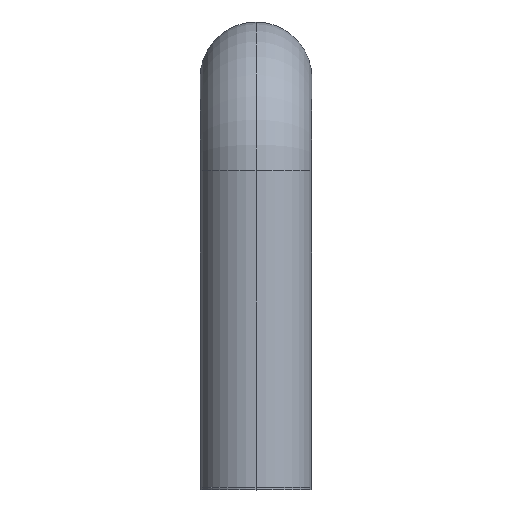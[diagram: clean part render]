
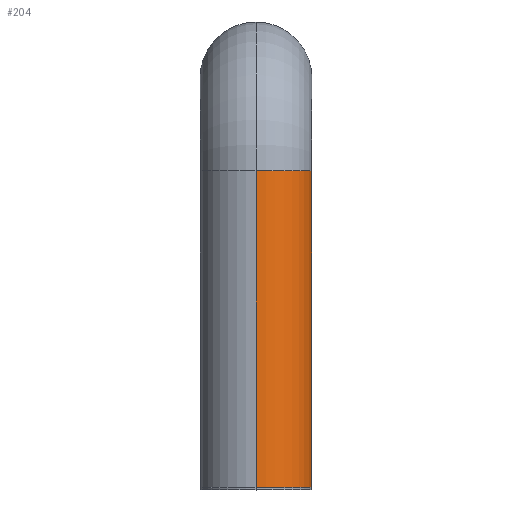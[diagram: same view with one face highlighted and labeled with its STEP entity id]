
A CAD part, top view. The second image highlights one B-rep face of the part: STEP entity #204.
In plain terms, the highlighted cylindrical face has radius 6 mm (diameter 12 mm), a partial arc.
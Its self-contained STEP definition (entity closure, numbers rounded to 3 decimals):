
#1 = FACE_OUTER_BOUND ( 'NONE', #473, .T. ) ;
#6 = DIRECTION ( 'NONE',  ( 0., 1., 0. ) ) ;
#14 = EDGE_CURVE ( 'NONE', #519, #365, #290, .T. ) ;
#53 = CARTESIAN_POINT ( 'NONE',  ( 0., 0., 0. ) ) ;
#65 = DIRECTION ( 'NONE',  ( 0., 0., 1. ) ) ;
#106 = AXIS2_PLACEMENT_3D ( 'NONE', #551, #348, #65 ) ;
#135 = CIRCLE ( 'NONE', #357, 6. ) ;
#150 = EDGE_CURVE ( 'NONE', #574, #519, #135, .T. ) ;
#160 = DIRECTION ( 'NONE',  ( 0., 0., 1. ) ) ;
#183 = CARTESIAN_POINT ( 'NONE',  ( 0., 0., 6. ) ) ;
#194 = DIRECTION ( 'NONE',  ( 0., 1., 0. ) ) ;
#197 = ORIENTED_EDGE ( 'NONE', *, *, #331, .F. ) ;
#201 = CYLINDRICAL_SURFACE ( 'NONE', #210, 6. ) ;
#204 = ADVANCED_FACE ( 'NONE', ( #1 ), #201, .T. ) ;
#210 = AXIS2_PLACEMENT_3D ( 'NONE', #528, #532, #160 ) ;
#218 = CARTESIAN_POINT ( 'NONE',  ( 0., 34., -6. ) ) ;
#287 = DIRECTION ( 'NONE',  ( 0., 1., 0. ) ) ;
#288 = ORIENTED_EDGE ( 'NONE', *, *, #14, .T. ) ;
#290 = LINE ( 'NONE', #319, #381 ) ;
#319 = CARTESIAN_POINT ( 'NONE',  ( 0., 0., -6. ) ) ;
#331 = EDGE_CURVE ( 'NONE', #355, #365, #437, .T. ) ;
#348 = DIRECTION ( 'NONE',  ( 0., 1., 0. ) ) ;
#355 = VERTEX_POINT ( 'NONE', #493 ) ;
#357 = AXIS2_PLACEMENT_3D ( 'NONE', #53, #6, #448 ) ;
#362 = LINE ( 'NONE', #564, #580 ) ;
#363 = ORIENTED_EDGE ( 'NONE', *, *, #432, .F. ) ;
#365 = VERTEX_POINT ( 'NONE', #218 ) ;
#381 = VECTOR ( 'NONE', #287, 1000. ) ;
#405 = ORIENTED_EDGE ( 'NONE', *, *, #150, .T. ) ;
#432 = EDGE_CURVE ( 'NONE', #574, #355, #362, .T. ) ;
#437 = CIRCLE ( 'NONE', #106, 6. ) ;
#448 = DIRECTION ( 'NONE',  ( 0., 0., 1. ) ) ;
#473 = EDGE_LOOP ( 'NONE', ( #405, #288, #197, #363 ) ) ;
#493 = CARTESIAN_POINT ( 'NONE',  ( 0., 34., 6. ) ) ;
#516 = CARTESIAN_POINT ( 'NONE',  ( 0., 0., -6. ) ) ;
#519 = VERTEX_POINT ( 'NONE', #516 ) ;
#528 = CARTESIAN_POINT ( 'NONE',  ( 0., 0., 0. ) ) ;
#532 = DIRECTION ( 'NONE',  ( 0., 1., 0. ) ) ;
#551 = CARTESIAN_POINT ( 'NONE',  ( 0., 34., 0. ) ) ;
#564 = CARTESIAN_POINT ( 'NONE',  ( 0., 0., 6. ) ) ;
#574 = VERTEX_POINT ( 'NONE', #183 ) ;
#580 = VECTOR ( 'NONE', #194, 1000. ) ;
